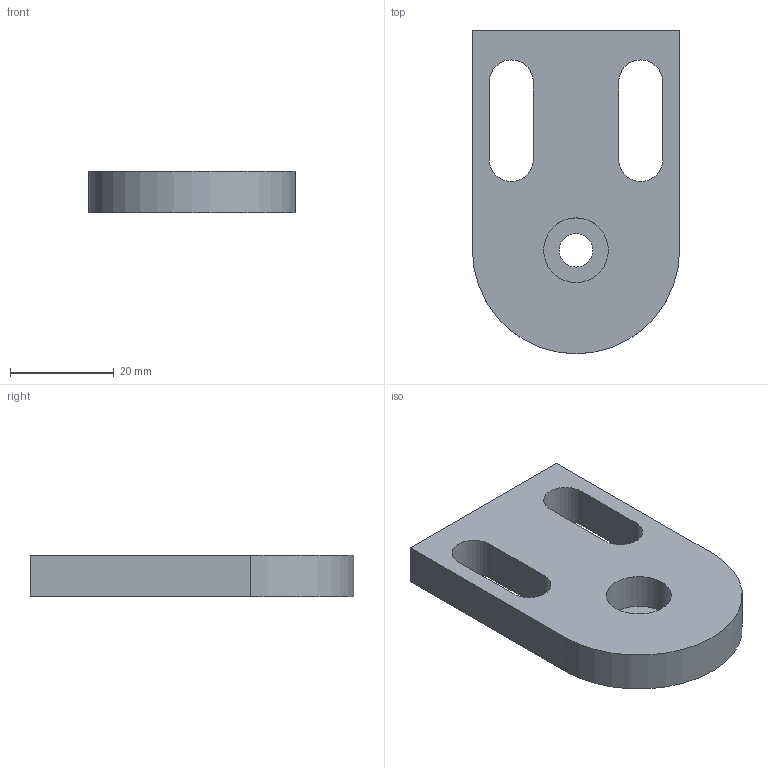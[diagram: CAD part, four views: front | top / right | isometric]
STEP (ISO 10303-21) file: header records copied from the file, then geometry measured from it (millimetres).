
FILE_DESCRIPTION (( 'STEP AP203' ), '1' );
FILE_NAME ('084.801.038.STEP', '2013-01-29T10:48:16', ( 'Alusic' ), ( 'Alusic' ), 'SwSTEP 2.0', 'SolidWorks 2011', '' );
FILE_SCHEMA (( 'CONFIG_CONTROL_DESIGN' ));
Length unit declared in the file: millimetre
Products named in the file (1): 084.801.038
Bounding box: 40 x 62.5 x 8 mm (x, y, z)
Volume: 14786.4 mm3; surface area: 6558.5 mm2
Topology: 1 solids, 1 shells, 19 faces, 48 edges, 32 vertices
Faces by surface type: plane 10, cylinder 9
Entity records: 669 total; most frequent: DIRECTION 106, CARTESIAN_POINT 100, ORIENTED_EDGE 96, EDGE_CURVE 48, AXIS2_PLACEMENT_3D 38, VERTEX_POINT 32, VECTOR 30, LINE 30
